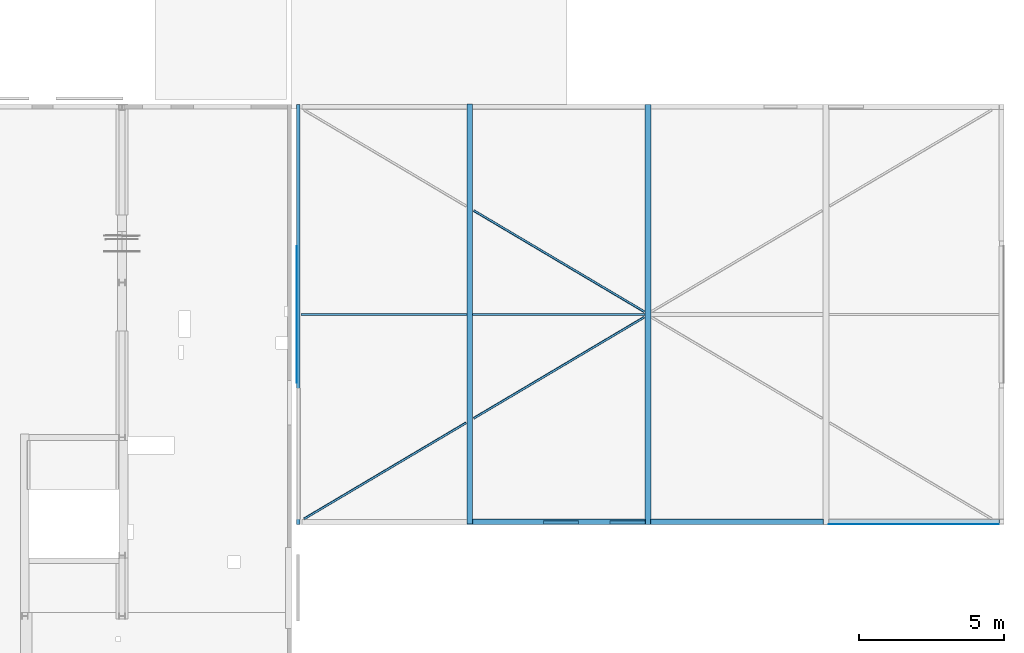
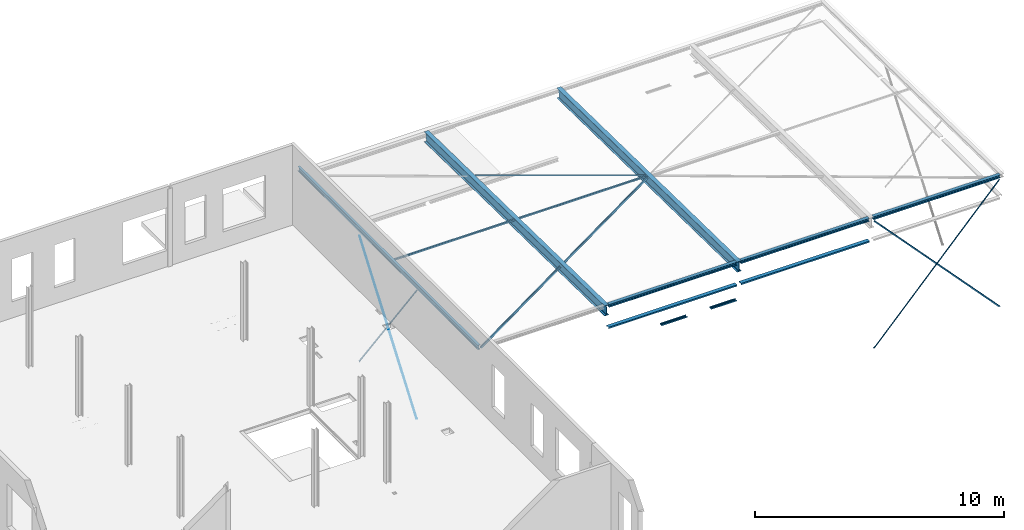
# One storey, part 9 of 16: 19 beams.
"""IFC2X3 building model written with IfcOpenShell, lengths in millimetres."""

from ifc_helpers import new_model, entity, si_unit, converted_unit, derived_unit, direction, frame, frame_2d, origin, place, context, subcontext, project, spatial, polyline, circle_curve, parameter, trimmed, segment, composite_curve, rectangle, i_section, outline, extrude, material, type_object, element, save


model = new_model("IFC2X3")

# Units and contexts
model_context = context("Model", 3, precision=0.01, world=origin(), true_north=direction((6.12303176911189e-17, 1.0)))
body_context = subcontext(model_context, "Body", "Model", "MODEL_VIEW")
ifc_project = project(units=[si_unit("LENGTHUNIT", "METRE", prefix="MILLI"), si_unit("AREAUNIT", "SQUARE_METRE"), si_unit("VOLUMEUNIT", "CUBIC_METRE"), converted_unit("PLANEANGLEUNIT", "DEGREE", entity("IfcRatioMeasure", 0.0174532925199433), si_unit("PLANEANGLEUNIT", "RADIAN"), dimensions=[0, 0, 0, 0, 0, 0, 0]), si_unit("MASSUNIT", "GRAM", prefix="KILO"), derived_unit("MASSDENSITYUNIT", [(si_unit("MASSUNIT", "GRAM", prefix="KILO"), 1), (si_unit("LENGTHUNIT", "METRE"), -3)]), derived_unit("MOMENTOFINERTIAUNIT", [(si_unit("LENGTHUNIT", "METRE"), 4)]), si_unit("TIMEUNIT", "SECOND"), si_unit("FREQUENCYUNIT", "HERTZ"), si_unit("THERMODYNAMICTEMPERATUREUNIT", "DEGREE_CELSIUS"), derived_unit("THERMALTRANSMITTANCEUNIT", [(si_unit("MASSUNIT", "GRAM", prefix="KILO"), 1), (si_unit("THERMODYNAMICTEMPERATUREUNIT", "KELVIN"), -1), (si_unit("TIMEUNIT", "SECOND"), -3)]), derived_unit("VOLUMETRICFLOWRATEUNIT", [(si_unit("LENGTHUNIT", "METRE"), 3), (si_unit("TIMEUNIT", "SECOND"), -1)]), si_unit("ELECTRICCURRENTUNIT", "AMPERE"), si_unit("ELECTRICVOLTAGEUNIT", "VOLT"), si_unit("POWERUNIT", "WATT"), si_unit("FORCEUNIT", "NEWTON", prefix="KILO"), si_unit("ILLUMINANCEUNIT", "LUX"), si_unit("LUMINOUSFLUXUNIT", "LUMEN"), si_unit("LUMINOUSINTENSITYUNIT", "CANDELA"), derived_unit("USERDEFINED", [(si_unit("MASSUNIT", "GRAM", prefix="KILO"), -1), (si_unit("LENGTHUNIT", "METRE"), -2), (si_unit("TIMEUNIT", "SECOND"), 3), (si_unit("LUMINOUSFLUXUNIT", "LUMEN"), 1)]), derived_unit("LINEARVELOCITYUNIT", [(si_unit("LENGTHUNIT", "METRE"), 1), (si_unit("TIMEUNIT", "SECOND"), -1)]), si_unit("PRESSUREUNIT", "PASCAL"), derived_unit("USERDEFINED", [(si_unit("LENGTHUNIT", "METRE"), -2), (si_unit("MASSUNIT", "GRAM", prefix="KILO"), 1), (si_unit("TIMEUNIT", "SECOND"), -2)]), derived_unit("LINEARFORCEUNIT", [(si_unit("MASSUNIT", "GRAM", prefix="KILO"), 1), (si_unit("LENGTHUNIT", "METRE"), 1), (si_unit("TIMEUNIT", "SECOND"), -2), (si_unit("LENGTHUNIT", "METRE"), -1)]), derived_unit("PLANARFORCEUNIT", [(si_unit("MASSUNIT", "GRAM", prefix="KILO"), 1), (si_unit("LENGTHUNIT", "METRE"), 1), (si_unit("TIMEUNIT", "SECOND"), -2), (si_unit("LENGTHUNIT", "METRE"), -2)])], contexts=[model_context])

# Site, building, storey
site_placement = place(None, origin())
site = spatial("IfcSite", under=ifc_project, at=site_placement, Name="Default", CompositionType="ELEMENT")
building_placement = place(site_placement, origin())
building = spatial("IfcBuilding", under=site, at=building_placement, CompositionType="ELEMENT")
storey_placement = place(building_placement, frame((0.0, 0.0, 3500.0)))
storey = spatial("IfcBuildingStorey", under=building, at=storey_placement, Name="01 eerste verdieping", CompositionType="ELEMENT", Elevation=3500.00000000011)

# Beams
ifc_material = material(Name="00_Staal_generiek")
beam_type_1 = type_object("IfcBeamType", Name="BERSnl_28_SF_LIB_balk koker vierkant_gen_ISR:balk gen k80x80x4", PredefinedType="BEAM")
beam_1_placement = place(storey_placement, frame((41085.9707996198, 28246.2966282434, 2850.0)))
element("IfcBeam", 1, at=beam_1_placement, inside=storey, type_object=beam_type_1, material=ifc_material, Name="BERSnl_28_SF_LIB_balk koker vierkant_gen_ISR:balk gen k80x80x4", ObjectType="BERSnl_28_SF_LIB_balk koker vierkant_gen_ISR:balk gen k80x80x4", context=body_context, shape_type="SweptSolid", body=[
    extrude(outline(composite_curve([segment(trimmed(circle_curve(frame_2d((-32.0, -32.0), x_axis=(1.0, 0.0)), 8.0), [parameter(180.0)], [parameter(270.0)], True, "PARAMETER"), True, "CONTINUOUS"), segment(polyline([(-32.0, -40.0), (32.0, -40.0)]), True, "CONTINUOUS"), segment(trimmed(circle_curve(frame_2d((32.0, -32.0), x_axis=(1.0, 0.0)), 8.0), [parameter(270.0)], [parameter(5.08888749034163e-14)], True, "PARAMETER"), True, "CONTINUOUS"), segment(polyline([(40.0, -32.0), (40.0, 32.0)]), True, "CONTINUOUS"), segment(trimmed(circle_curve(frame_2d((32.0, 32.0), x_axis=(1.0, 0.0)), 8.0), [parameter(360.0)], [parameter(89.9999999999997)], True, "PARAMETER"), True, "CONTINUOUS"), segment(polyline([(32.0, 40.0), (-32.0, 40.0)]), True, "CONTINUOUS"), segment(trimmed(circle_curve(frame_2d((-32.0, 32.0), x_axis=(1.0, 0.0)), 8.0), [parameter(90.0000000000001)], [parameter(180.0)], True, "PARAMETER"), True, "CONTINUOUS"), segment(polyline([(-40.0, 32.0), (-40.0, -32.0)]), True, "CONTINUOUS")], self_intersect=False), holes=[composite_curve([segment(polyline([(32.0, -36.0), (-32.0, -36.0)]), True, "CONTINUOUS"), segment(trimmed(circle_curve(frame_2d((-32.0, -32.0), x_axis=(1.0, 0.0)), 4.0), [parameter(180.0)], [parameter(270.0)], True, "PARAMETER"), False, "CONTINUOUS"), segment(polyline([(-36.0, -32.0), (-36.0, 32.0)]), True, "CONTINUOUS"), segment(trimmed(circle_curve(frame_2d((-32.0, 32.0), x_axis=(1.0, 0.0)), 4.0), [parameter(90.0000000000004)], [parameter(180.0)], True, "PARAMETER"), False, "CONTINUOUS"), segment(polyline([(-32.0, 36.0), (32.0, 36.0)]), True, "CONTINUOUS"), segment(trimmed(circle_curve(frame_2d((32.0, 32.0), x_axis=(1.0, 0.0)), 4.0), [parameter(0.0)], [parameter(90.0000000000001)], True, "PARAMETER"), False, "CONTINUOUS"), segment(polyline([(36.0, 32.0), (36.0, -32.0)]), True, "CONTINUOUS"), segment(trimmed(circle_curve(frame_2d((32.0, -32.0), x_axis=(1.0, 0.0)), 4.0), [parameter(270.0)], [parameter(3.05333249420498e-13)], True, "PARAMETER"), False, "CONTINUOUS")], self_intersect=False)]), frame((-2.51561371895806, 0.0, -40.0), z_axis=(1.0, 0.0, 0.0), x_axis=(0.0, -1.0, 0.0)), (0.0, 0.0, 1.0), 5949.9437424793),
])
beam_2_placement = place(storey_placement, frame((35241.9707996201, 28246.2966282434, 2850.0)))
element("IfcBeam", 2, at=beam_2_placement, inside=storey, type_object=beam_type_1, material=ifc_material, Name="BERSnl_28_SF_LIB_balk koker vierkant_gen_ISR:balk gen k80x80x4", ObjectType="BERSnl_28_SF_LIB_balk koker vierkant_gen_ISR:balk gen k80x80x4", context=body_context, shape_type="SweptSolid", body=[
    extrude(outline(composite_curve([segment(trimmed(circle_curve(frame_2d((-32.0, -32.0), x_axis=(1.0, 0.0)), 8.0), [parameter(180.0)], [parameter(270.0)], True, "PARAMETER"), True, "CONTINUOUS"), segment(polyline([(-32.0, -40.0), (32.0, -40.0)]), True, "CONTINUOUS"), segment(trimmed(circle_curve(frame_2d((32.0, -32.0), x_axis=(1.0, 0.0)), 8.0), [parameter(270.0)], [parameter(5.08888749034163e-14)], True, "PARAMETER"), True, "CONTINUOUS"), segment(polyline([(40.0, -32.0), (40.0, 32.0)]), True, "CONTINUOUS"), segment(trimmed(circle_curve(frame_2d((32.0, 32.0), x_axis=(1.0, 0.0)), 8.0), [parameter(360.0)], [parameter(89.9999999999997)], True, "PARAMETER"), True, "CONTINUOUS"), segment(polyline([(32.0, 40.0), (-32.0, 40.0)]), True, "CONTINUOUS"), segment(trimmed(circle_curve(frame_2d((-32.0, 32.0), x_axis=(1.0, 0.0)), 8.0), [parameter(90.0000000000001)], [parameter(180.0)], True, "PARAMETER"), True, "CONTINUOUS"), segment(polyline([(-40.0, 32.0), (-40.0, -32.0)]), True, "CONTINUOUS")], self_intersect=False), holes=[composite_curve([segment(polyline([(32.0, -36.0), (-32.0, -36.0)]), True, "CONTINUOUS"), segment(trimmed(circle_curve(frame_2d((-32.0, -32.0), x_axis=(1.0, 0.0)), 4.0), [parameter(180.0)], [parameter(270.0)], True, "PARAMETER"), False, "CONTINUOUS"), segment(polyline([(-36.0, -32.0), (-36.0, 32.0)]), True, "CONTINUOUS"), segment(trimmed(circle_curve(frame_2d((-32.0, 32.0), x_axis=(1.0, 0.0)), 4.0), [parameter(90.0000000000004)], [parameter(180.0)], True, "PARAMETER"), False, "CONTINUOUS"), segment(polyline([(-32.0, 36.0), (32.0, 36.0)]), True, "CONTINUOUS"), segment(trimmed(circle_curve(frame_2d((32.0, 32.0), x_axis=(1.0, 0.0)), 4.0), [parameter(0.0)], [parameter(90.0000000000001)], True, "PARAMETER"), False, "CONTINUOUS"), segment(polyline([(36.0, 32.0), (36.0, -32.0)]), True, "CONTINUOUS"), segment(trimmed(circle_curve(frame_2d((32.0, -32.0), x_axis=(1.0, 0.0)), 4.0), [parameter(270.0)], [parameter(3.05333249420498e-13)], True, "PARAMETER"), False, "CONTINUOUS")], self_intersect=False)]), frame((-82.5156137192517, 0.0, -40.0), z_axis=(1.0, 0.0, 0.0), x_axis=(0.0, -1.0, 0.0)), (0.0, 0.0, 1.0), 5723.94374247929),
])
beam_type_2 = type_object("IfcBeamType", Name="BERSnl_28_SF_LIB_balk strip_gen_ISR:balk strip  gen 60x6", PredefinedType="USERDEFINED")
beam_3_placement = place(storey_placement, frame((53480.9179705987, 20999.2966282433, -3355.63145820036), z_axis=(0.73135370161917, 0.0, -0.681998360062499), x_axis=(0.681998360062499, 0.0, 0.73135370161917)))
element("IfcBeam", 3, at=beam_3_placement, inside=storey, type_object=beam_type_2, material=ifc_material, Name="BERSnl_28_SF_LIB_balk strip_gen_ISR:balk strip  gen 60x6", ObjectType="BERSnl_28_SF_LIB_balk strip_gen_ISR:balk strip  gen 60x6", context=body_context, shape_type="SweptSolid", body=[
    extrude(rectangle(XDim=59.9999999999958, YDim=5.99999999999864, at=frame_2d((1.4388490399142e-13, 0.0), x_axis=(1.0, 0.0))), frame((-155.581316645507, 0.0, 30.0), z_axis=(1.0, 0.0, 0.0), x_axis=(0.0, 0.0, -1.0)), (0.0, 0.0, 1.0), 8542.64911655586),
])
beam_4_placement = place(storey_placement, frame((59145.9361436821, 20999.2966282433, -3355.63145820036), z_axis=(0.73135370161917, 0.0, 0.681998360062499), x_axis=(-0.681998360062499, 0.0, 0.73135370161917)))
element("IfcBeam", 4, at=beam_4_placement, inside=storey, type_object=beam_type_2, material=ifc_material, Name="BERSnl_28_SF_LIB_balk strip_gen_ISR:balk strip  gen 60x6", ObjectType="BERSnl_28_SF_LIB_balk strip_gen_ISR:balk strip  gen 60x6", context=body_context, shape_type="SweptSolid", body=[
    extrude(rectangle(XDim=59.9999999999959, YDim=5.99999999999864, at=frame_2d((1.06581410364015e-14, 0.0), x_axis=(1.0, 0.0))), frame((-155.581316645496, 0.0, -30.0), z_axis=(1.0, 0.0, 0.0), x_axis=(0.0, 0.0, -1.0)), (0.0, 0.0, 1.0), 8531.76769952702),
])
beam_5_placement = place(storey_placement, frame((35000.9270571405, 25904.4378253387, -3462.0795624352), z_axis=(1.0, 0.0, 0.0), x_axis=(0.0, 0.595146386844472, 0.803617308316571)))
element("IfcBeam", 5, at=beam_5_placement, inside=storey, type_object=beam_type_2, material=ifc_material, Name="BERSnl_28_SF_LIB_balk strip_gen_ISR:balk strip  gen 60x6", ObjectType="BERSnl_28_SF_LIB_balk strip_gen_ISR:balk strip  gen 60x6", context=body_context, shape_type="SweptSolid", body=[
    extrude(rectangle(XDim=59.999999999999, YDim=5.99999999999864, at=frame_2d((0.0, -7.105427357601e-15), x_axis=(0.0, 1.0))), frame((-17.7819074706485, -30.0, 0.0), z_axis=(1.0, 0.0, 0.0), x_axis=(0.0, 0.0, -1.0)), (0.0, 0.0, 1.0), 7719.42517268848),
])
beam_6_placement = place(storey_placement, frame((35006.9270571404, 30580.2572643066, -3458.08638488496), z_axis=(1.0, 0.0, 0.0), x_axis=(0.0, -0.593289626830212, 0.804989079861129)))
element("IfcBeam", 6, at=beam_6_placement, inside=storey, type_object=beam_type_2, material=ifc_material, Name="BERSnl_28_SF_LIB_balk strip_gen_ISR:balk strip  gen 60x6", ObjectType="BERSnl_28_SF_LIB_balk strip_gen_ISR:balk strip  gen 60x6", context=body_context, shape_type="SweptSolid", body=[
    extrude(rectangle(XDim=59.9999999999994, YDim=5.99999999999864, at=frame_2d((0.0, -2.34834374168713e-12), x_axis=(0.0, 1.0))), frame((-31.1898014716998, 30.0, 0.0), z_axis=(1.0, 0.0, 0.0), x_axis=(0.0, 0.0, -1.0)), (0.0, 0.0, 1.0), 7851.1898014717),
])
beam_type_3 = type_object("IfcBeamType", Name="BERSnl_28_SF_LIB_balk unp_gen_ISR:balk_gen_UNP140", PredefinedType="BEAM")
beam_7_placement = place(storey_placement, frame((47265.8374303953, 20996.2966282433, 1077.49999999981), z_axis=(0.0, 0.0, 1.0), x_axis=(-1.0, 0.0, 0.0)))
element("IfcBeam", 7, at=beam_7_placement, inside=storey, type_object=beam_type_3, material=ifc_material, Name="BERSnl_28_SF_LIB_balk unp_gen_ISR:balk_gen_UNP140", ObjectType="BERSnl_28_SF_LIB_balk unp_gen_ISR:balk_gen_UNP140", context=body_context, shape_type="SweptSolid", body=[
    extrude(outline(composite_curve([segment(polyline([(-26.8998758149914, -70.0), (33.100124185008, -70.0)]), True, "CONTINUOUS"), segment(polyline([(33.100124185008, -70.0), (33.1001241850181, 70.0)]), True, "CONTINUOUS"), segment(polyline([(33.1001241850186, 70.0), (-26.8998758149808, 70.0)]), True, "CONTINUOUS"), segment(polyline([(-26.8998758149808, 70.0), (-26.899875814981, 66.7383127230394)]), True, "CONTINUOUS"), segment(trimmed(circle_curve(frame_2d((-21.8998758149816, 66.7383127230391), x_axis=(-1.0, 0.0)), 4.99999999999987), [parameter(0.0)], [parameter(85.4200000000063)], True, "PARAMETER"), True, "CONTINUOUS"), segment(polyline([(-22.2991307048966, 61.7542786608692), (16.8986339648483, 58.6142721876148)]), True, "CONTINUOUS"), segment(trimmed(circle_curve(frame_2d((16.1001241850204, 48.6462040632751), x_axis=(0.0798509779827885, 0.996806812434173)), 9.99999999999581), [parameter(274.579999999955)], [parameter(0.0)], True, "PARAMETER"), False, "CONTINUOUS"), segment(polyline([(26.1001241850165, 48.6462040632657), (26.1001241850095, -48.6462040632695)]), True, "CONTINUOUS"), segment(trimmed(circle_curve(frame_2d((16.1001241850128, -48.6462040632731), x_axis=(1.0, 0.0)), 9.99999999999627), [parameter(274.579999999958)], [parameter(0.0)], True, "PARAMETER"), False, "CONTINUOUS"), segment(polyline([(16.8986339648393, -58.6142721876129), (-22.2991307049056, -61.754278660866)]), True, "CONTINUOUS"), segment(trimmed(circle_curve(frame_2d((-21.8998758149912, -66.7383127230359), x_axis=(-0.0798509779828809, 0.996806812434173)), 4.99999999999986), [parameter(0.0)], [parameter(85.4200000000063)], True, "PARAMETER"), True, "CONTINUOUS"), segment(polyline([(-26.8998758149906, -66.7383127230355), (-26.8998758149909, -70.0)]), True, "CONTINUOUS")], self_intersect=False)), frame((222.410373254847, -70.0, 15.6001241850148), z_axis=(1.0, 0.0, 0.0), x_axis=(0.0, 0.0, -1.0)), (0.0, 0.0, 1.0), 1210.00000000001),
])
beam_8_placement = place(storey_placement, frame((44965.8374303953, 20996.2966282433, 1077.49999999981), z_axis=(0.0, 0.0, 1.0), x_axis=(-1.0, 0.0, 0.0)))
element("IfcBeam", 8, at=beam_8_placement, inside=storey, type_object=beam_type_3, material=ifc_material, Name="BERSnl_28_SF_LIB_balk unp_gen_ISR:balk_gen_UNP140", ObjectType="BERSnl_28_SF_LIB_balk unp_gen_ISR:balk_gen_UNP140", context=body_context, shape_type="SweptSolid", body=[
    extrude(outline(composite_curve([segment(polyline([(-26.8998758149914, -70.0), (33.100124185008, -70.0)]), True, "CONTINUOUS"), segment(polyline([(33.100124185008, -70.0), (33.1001241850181, 70.0)]), True, "CONTINUOUS"), segment(polyline([(33.1001241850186, 70.0), (-26.8998758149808, 70.0)]), True, "CONTINUOUS"), segment(polyline([(-26.8998758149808, 70.0), (-26.899875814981, 66.7383127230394)]), True, "CONTINUOUS"), segment(trimmed(circle_curve(frame_2d((-21.8998758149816, 66.7383127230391), x_axis=(-1.0, 0.0)), 4.99999999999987), [parameter(0.0)], [parameter(85.4200000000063)], True, "PARAMETER"), True, "CONTINUOUS"), segment(polyline([(-22.2991307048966, 61.7542786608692), (16.8986339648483, 58.6142721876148)]), True, "CONTINUOUS"), segment(trimmed(circle_curve(frame_2d((16.1001241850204, 48.6462040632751), x_axis=(0.0798509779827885, 0.996806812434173)), 9.99999999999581), [parameter(274.579999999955)], [parameter(0.0)], True, "PARAMETER"), False, "CONTINUOUS"), segment(polyline([(26.1001241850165, 48.6462040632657), (26.1001241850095, -48.6462040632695)]), True, "CONTINUOUS"), segment(trimmed(circle_curve(frame_2d((16.1001241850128, -48.6462040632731), x_axis=(1.0, 0.0)), 9.99999999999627), [parameter(274.579999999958)], [parameter(0.0)], True, "PARAMETER"), False, "CONTINUOUS"), segment(polyline([(16.8986339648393, -58.6142721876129), (-22.2991307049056, -61.754278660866)]), True, "CONTINUOUS"), segment(trimmed(circle_curve(frame_2d((-21.8998758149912, -66.7383127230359), x_axis=(-0.0798509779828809, 0.996806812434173)), 4.99999999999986), [parameter(0.0)], [parameter(85.4200000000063)], True, "PARAMETER"), True, "CONTINUOUS"), segment(polyline([(-26.8998758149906, -66.7383127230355), (-26.8998758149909, -70.0)]), True, "CONTINUOUS")], self_intersect=False)), frame((222.410373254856, -70.0, 15.6001241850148), z_axis=(1.0, 0.0, 0.0), x_axis=(0.0, 0.0, -1.0)), (0.0, 0.0, 1.0), 1210.00000000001),
])
beam_type_4 = type_object("IfcBeamType", Name="BERSnl_28_SF_LIB_balk ipe -SH_gen_ISR:balk gen ipe500", PredefinedType="BEAM")
beam_9_placement = place(storey_placement, frame((47133.4270571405, 29996.8853596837, 2820.0), z_axis=(0.0, 0.0168230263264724, 0.999858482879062), x_axis=(0.0, -0.999858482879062, 0.0168230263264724)))
element("IfcBeam", 9, at=beam_9_placement, inside=storey, type_object=beam_type_4, material=ifc_material, Name="BERSnl_28_SF_LIB_balk ipe -SH_gen_ISR:balk gen ipe500", ObjectType="BERSnl_28_SF_LIB_balk ipe -SH_gen_ISR:balk gen ipe500", context=body_context, shape_type="SweptSolid", body=[
    extrude(i_section(OverallWidth=200.000000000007, OverallDepth=499.999999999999, WebThickness=10.1999999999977, FlangeThickness=16.0000000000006, FilletRadius=21.0000000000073, at=frame_2d((1.08002495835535e-12, 1.29958266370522e-11), x_axis=(0.0, 1.0))), frame((-5507.2793335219, 0.0, -250.0), z_axis=(1.0, 0.0, 0.0), x_axis=(0.0, 0.0, -1.0)), (0.0, 0.0, 1.0), 14508.604248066),
])
beam_10_placement = place(storey_placement, frame((40983.4270571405, 30004.4900459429, 2820.0), z_axis=(0.0, 0.0168230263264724, 0.999858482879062), x_axis=(0.0, -0.999858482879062, 0.0168230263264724)))
element("IfcBeam", 10, at=beam_10_placement, inside=storey, type_object=beam_type_4, material=ifc_material, Name="BERSnl_28_SF_LIB_balk ipe -SH_gen_ISR:balk gen ipe500", ObjectType="BERSnl_28_SF_LIB_balk ipe -SH_gen_ISR:balk gen ipe500", context=body_context, shape_type="SweptSolid", body=[
    extrude(i_section(OverallWidth=200.000000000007, OverallDepth=499.999999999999, WebThickness=10.1999999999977, FlangeThickness=16.0000000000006, FilletRadius=21.0000000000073, at=frame_2d((0.0, 4.33431068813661e-12), x_axis=(0.0, 1.0))), frame((-5507.2793335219, 0.0, -250.0), z_axis=(1.0, 0.0, 0.0), x_axis=(0.0, 0.0, -1.0)), (0.0, 0.0, 1.0), 14508.604248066),
])
beam_type_5 = type_object("IfcBeamType", Name="BERSnl_28_SF_LIB_balk hea -SH_gen_ISR:balk gen hea160", PredefinedType="BEAM")
beam_11_placement = place(storey_placement, frame((54767.5838972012, 21076.2966282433, 2970.0)))
element("IfcBeam", 11, at=beam_11_placement, inside=storey, type_object=beam_type_5, material=ifc_material, Name="BERSnl_28_SF_LIB_balk hea -SH_gen_ISR:balk gen hea160", ObjectType="BERSnl_28_SF_LIB_balk hea -SH_gen_ISR:balk gen hea160", context=body_context, shape_type="SweptSolid", body=[
    extrude(i_section(OverallWidth=160.00000000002, OverallDepth=152.0, WebThickness=5.99999999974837, FlangeThickness=9.0000000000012, FilletRadius=15.0000000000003, at=frame_2d((2.16715534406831e-12, -2.16715534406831e-12), x_axis=(0.0, 1.0))), frame((-1384.1568400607, 0.0, -76.0), z_axis=(1.0, 0.0, 0.0), x_axis=(0.0, 0.0, -1.0)), (0.0, 0.0, 1.0), 5890.00000000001),
])
beam_12_placement = place(storey_placement, frame((48617.5838972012, 21076.2966282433, 2970.0)))
element("IfcBeam", 12, at=beam_12_placement, inside=storey, type_object=beam_type_5, material=ifc_material, Name="BERSnl_28_SF_LIB_balk hea -SH_gen_ISR:balk gen hea160", ObjectType="BERSnl_28_SF_LIB_balk hea -SH_gen_ISR:balk gen hea160", context=body_context, shape_type="SweptSolid", body=[
    extrude(i_section(OverallWidth=160.00000000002, OverallDepth=152.0, WebThickness=5.99999999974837, FlangeThickness=9.0000000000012, FilletRadius=15.0000000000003, at=frame_2d((2.16715534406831e-12, -2.16715534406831e-12), x_axis=(0.0, 1.0))), frame((-1384.15684006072, 0.0, -76.0), z_axis=(1.0, 0.0, 0.0), x_axis=(0.0, 0.0, -1.0)), (0.0, 0.0, 1.0), 5949.99999999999),
])
beam_13_placement = place(storey_placement, frame((42467.5838972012, 21076.2966282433, 2970.0)))
element("IfcBeam", 13, at=beam_13_placement, inside=storey, type_object=beam_type_5, material=ifc_material, Name="BERSnl_28_SF_LIB_balk hea -SH_gen_ISR:balk gen hea160", ObjectType="BERSnl_28_SF_LIB_balk hea -SH_gen_ISR:balk gen hea160", context=body_context, shape_type="SweptSolid", body=[
    extrude(i_section(OverallWidth=160.00000000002, OverallDepth=152.0, WebThickness=5.99999999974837, FlangeThickness=9.0000000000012, FilletRadius=15.0000000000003, at=frame_2d((2.16715534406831e-12, -6.50146603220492e-12), x_axis=(0.0, 1.0))), frame((-1372.62669131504, 0.0, -76.0), z_axis=(1.0, 0.0, 0.0), x_axis=(0.0, 0.0, -1.0)), (0.0, 0.0, 1.0), 5938.46985125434),
])
beam_type_6 = type_object("IfcBeamType", Name="BERSnl_28_SF_LIB_balk hoeklijn_gen_ISR:balk gen l80x8", PredefinedType="BEAM")
beam_14_placement = place(storey_placement, frame((44945.8738817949, 29543.0702714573, 2840.0), z_axis=(-0.00694321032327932, 0.0041159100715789, 0.99996742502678), x_axis=(-0.860186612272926, 0.509915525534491, -0.00807148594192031)))
element("IfcBeam", 14, at=beam_14_placement, inside=storey, type_object=beam_type_6, material=ifc_material, Name="BERSnl_28_SF_LIB_balk hoeklijn_gen_ISR:balk gen l80x8", ObjectType="BERSnl_28_SF_LIB_balk hoeklijn_gen_ISR:balk gen l80x8", context=body_context, shape_type="SweptSolid", body=[
    extrude(outline(composite_curve([segment(polyline([(27.2222222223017, -49.7777777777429), (30.2222222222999, -49.7777777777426)]), True, "CONTINUOUS"), segment(polyline([(30.2222222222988, -49.7777777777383), (30.2222222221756, 30.2222222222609)]), True, "CONTINUOUS"), segment(polyline([(30.2222222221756, 30.2222222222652), (-49.7777777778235, 30.2222222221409)]), True, "CONTINUOUS"), segment(polyline([(-49.7777777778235, 30.2222222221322), (-49.7777777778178, 27.2222222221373)]), True, "CONTINUOUS"), segment(trimmed(circle_curve(frame_2d((-44.7777777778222, 27.222222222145), x_axis=(-1.0, 0.0)), 4.99999999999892), [parameter(0.0)], [parameter(90.0000000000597)], True, "PARAMETER"), True, "CONTINUOUS"), segment(polyline([(-44.7777777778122, 22.2222222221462), (12.22222222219, 22.222222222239)]), True, "CONTINUOUS"), segment(trimmed(circle_curve(frame_2d((12.2222222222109, 12.222222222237), x_axis=(0.0, 1.0)), 9.99999999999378), [parameter(269.999999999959)], [parameter(0.0)], True, "PARAMETER"), False, "CONTINUOUS"), segment(polyline([(22.2222222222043, 12.2222222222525), (22.2222222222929, -44.7777777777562)]), True, "CONTINUOUS"), segment(trimmed(circle_curve(frame_2d((27.2222222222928, -44.7777777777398), x_axis=(-1.0, 0.0)), 5.00000000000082), [parameter(0.0)], [parameter(89.9999999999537)], True, "PARAMETER"), True, "CONTINUOUS")], self_intersect=False)), frame((-2388.33625352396, -7.62222222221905, -49.7777777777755), z_axis=(1.0, 0.0, 0.0), x_axis=(0.0, 0.0, -1.0)), (0.0, 0.0, 1.0), 6853.10228995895),
])
beam_15_placement = place(storey_placement, frame((44945.8738817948, 26949.5229850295, 2840.0), z_axis=(0.0, 0.0, 1.0), x_axis=(-0.860214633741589, -0.509932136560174, 0.0)))
element("IfcBeam", 15, at=beam_15_placement, inside=storey, type_object=beam_type_6, material=ifc_material, Name="BERSnl_28_SF_LIB_balk hoeklijn_gen_ISR:balk gen l80x8", ObjectType="BERSnl_28_SF_LIB_balk hoeklijn_gen_ISR:balk gen l80x8", context=body_context, shape_type="SweptSolid", body=[
    extrude(outline(composite_curve([segment(polyline([(-49.7777777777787, -30.2222222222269), (30.2222222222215, -30.2222222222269)]), True, "CONTINUOUS"), segment(polyline([(30.2222222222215, -30.2222222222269), (30.2222222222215, 49.7777777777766)]), True, "CONTINUOUS"), segment(polyline([(30.2222222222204, 49.7777777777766), (27.2222222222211, 49.7777777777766)]), True, "CONTINUOUS"), segment(trimmed(circle_curve(frame_2d((27.2222222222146, 44.7777777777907), x_axis=(0.0, 1.0)), 4.99999999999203), [parameter(0.0)], [parameter(90.0000000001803)], True, "PARAMETER"), True, "CONTINUOUS"), segment(polyline([(22.2222222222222, 44.7777777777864), (22.2222222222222, -12.222222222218)]), True, "CONTINUOUS"), segment(trimmed(circle_curve(frame_2d((12.2222222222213, -12.2222222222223), x_axis=(1.0, 0.0)), 10.0000000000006), [parameter(270.000000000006)], [parameter(0.0)], True, "PARAMETER"), False, "CONTINUOUS"), segment(polyline([(12.2222222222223, -22.2222222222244), (-44.7777777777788, -22.2222222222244)]), True, "CONTINUOUS"), segment(trimmed(circle_curve(frame_2d((-44.7777777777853, -27.2222222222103), x_axis=(0.0, 1.0)), 4.99999999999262), [parameter(0.0)], [parameter(90.0000000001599)], True, "PARAMETER"), True, "CONTINUOUS"), segment(polyline([(-49.7777777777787, -27.2222222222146), (-49.7777777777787, -30.2222222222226)]), True, "CONTINUOUS")], self_intersect=False)), frame((-2388.35889808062, 7.62222222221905, -49.7777777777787), z_axis=(1.0, 0.0, 0.0), x_axis=(0.0, 0.0, -1.0)), (0.0, 0.0, 1.0), 6853.00228995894),
])
beam_16_placement = place(storey_placement, frame((40849.6826242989, 24521.3155612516, 2840.0), z_axis=(0.0, 0.0, 1.0), x_axis=(-0.860214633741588, -0.509932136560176, 0.0)))
element("IfcBeam", 16, at=beam_16_placement, inside=storey, type_object=beam_type_6, material=ifc_material, Name="BERSnl_28_SF_LIB_balk hoeklijn_gen_ISR:balk gen l80x8", ObjectType="BERSnl_28_SF_LIB_balk hoeklijn_gen_ISR:balk gen l80x8", context=body_context, shape_type="SweptSolid", body=[
    extrude(outline(composite_curve([segment(polyline([(-49.7777777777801, -30.2222222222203), (30.2222222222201, -30.2222222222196)]), True, "CONTINUOUS"), segment(polyline([(30.2222222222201, -30.222222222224), (30.2222222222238, 49.7777777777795)]), True, "CONTINUOUS"), segment(polyline([(30.2222222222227, 49.7777777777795), (27.2222222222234, 49.7777777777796)]), True, "CONTINUOUS"), segment(trimmed(circle_curve(frame_2d((27.2222222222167, 44.7777777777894), x_axis=(0.0, 1.0)), 4.99999999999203), [parameter(0.0)], [parameter(90.0000000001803)], True, "PARAMETER"), True, "CONTINUOUS"), segment(polyline([(22.2222222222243, 44.7777777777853), (22.2222222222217, -12.222222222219)]), True, "CONTINUOUS"), segment(trimmed(circle_curve(frame_2d((12.2222222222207, -12.2222222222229), x_axis=(1.0, 0.0)), 10.0000000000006), [parameter(270.000000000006)], [parameter(0.0)], True, "PARAMETER"), False, "CONTINUOUS"), segment(polyline([(12.2222222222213, -22.2222222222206), (-44.7777777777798, -22.2222222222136)]), True, "CONTINUOUS"), segment(trimmed(circle_curve(frame_2d((-44.7777777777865, -27.2222222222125), x_axis=(0.0, 1.0)), 4.99999999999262), [parameter(0.0)], [parameter(90.0000000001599)], True, "PARAMETER"), True, "CONTINUOUS"), segment(polyline([(-49.77777777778, -27.2222222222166), (-49.7777777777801, -30.2222222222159)]), True, "CONTINUOUS")], self_intersect=False)), frame((0.0, 7.62222222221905, -49.7777777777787), z_axis=(1.0, 0.0, 0.0), x_axis=(0.0, 0.0, -1.0)), (0.0, 0.0, 1.0), 6510.70739609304),
])
beam_type_7 = type_object("IfcBeamType", Name="BERSnl_28_SF_LIB_balk unp_gen_ISR:balk_gen_UNP180", PredefinedType="BEAM")
beam_17_placement = place(storey_placement, frame((55261.5254640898, 21176.2966282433, 1832.49999999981), z_axis=(0.0, 0.0, 1.0), x_axis=(-1.0, 0.0, 0.0)))
element("IfcBeam", 17, at=beam_17_placement, inside=storey, type_object=beam_type_7, material=ifc_material, Name="BERSnl_28_SF_LIB_balk unp_gen_ISR:balk_gen_UNP180", ObjectType="BERSnl_28_SF_LIB_balk unp_gen_ISR:balk_gen_UNP180", context=body_context, shape_type="SweptSolid", body=[
    extrude(outline(composite_curve([segment(polyline([(-38.5101366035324, -90.0), (31.4898633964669, -90.0)]), True, "CONTINUOUS"), segment(polyline([(31.4898633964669, -90.0), (31.4898633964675, -86.5603415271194)]), True, "CONTINUOUS"), segment(trimmed(circle_curve(frame_2d((25.9898633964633, -86.5603415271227), x_axis=(1.0, 0.0)), 5.50000000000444), [parameter(0.0)], [parameter(85.4199999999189)], True, "PARAMETER"), True, "CONTINUOUS"), segment(polyline([(26.4290437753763, -81.0779040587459), (-20.3884973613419, -77.3275018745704)]), True, "CONTINUOUS"), segment(trimmed(circle_curve(frame_2d((-19.510136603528, -66.3626269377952), x_axis=(-0.0798509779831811, -0.996806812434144)), 10.9999999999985), [parameter(274.579999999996)], [parameter(0.0)], True, "PARAMETER"), False, "CONTINUOUS"), segment(polyline([(-30.5101366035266, -66.3626269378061), (-30.510136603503, 66.3626269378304)]), True, "CONTINUOUS"), segment(trimmed(circle_curve(frame_2d((-19.5101366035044, 66.3626269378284), x_axis=(-1.0, 0.0)), 10.9999999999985), [parameter(274.579999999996)], [parameter(0.0)], True, "PARAMETER"), False, "CONTINUOUS"), segment(polyline([(-20.3884973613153, 77.3275018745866), (26.4290437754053, 81.0779040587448)]), True, "CONTINUOUS"), segment(trimmed(circle_curve(frame_2d((25.9898633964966, 86.5603415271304), x_axis=(0.0798509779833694, -0.99680681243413)), 5.50000000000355), [parameter(0.0)], [parameter(85.4199999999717)], True, "PARAMETER"), True, "CONTINUOUS"), segment(polyline([(31.4898633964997, 86.5603415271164), (31.4898633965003, 90.0)]), True, "CONTINUOUS"), segment(polyline([(31.4898633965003, 90.0), (-38.510136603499, 90.0)]), True, "CONTINUOUS"), segment(polyline([(-38.5101366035, 90.0), (-38.5101366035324, -90.0)]), True, "CONTINUOUS")], self_intersect=False)), frame((2068.09840694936, 90.0, -19.3101366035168), z_axis=(1.0, 0.0, 0.0), x_axis=(0.0, 0.0, -1.0)), (0.0, 0.0, 1.0), 5969.99999999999),
])
beam_18_placement = place(storey_placement, frame((49111.5254640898, 21176.2966282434, 1832.49999999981), z_axis=(0.0, 0.0, 1.0), x_axis=(-1.0, 0.0, 0.0)))
element("IfcBeam", 18, at=beam_18_placement, inside=storey, type_object=beam_type_7, material=ifc_material, Name="BERSnl_28_SF_LIB_balk unp_gen_ISR:balk_gen_UNP180", ObjectType="BERSnl_28_SF_LIB_balk unp_gen_ISR:balk_gen_UNP180", context=body_context, shape_type="SweptSolid", body=[
    extrude(outline(composite_curve([segment(polyline([(-38.5101366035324, -90.0), (31.4898633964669, -90.0)]), True, "CONTINUOUS"), segment(polyline([(31.4898633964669, -90.0), (31.4898633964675, -86.5603415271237)]), True, "CONTINUOUS"), segment(trimmed(circle_curve(frame_2d((25.9898633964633, -86.5603415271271), x_axis=(1.0, 0.0)), 5.50000000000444), [parameter(0.0)], [parameter(85.4199999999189)], True, "PARAMETER"), True, "CONTINUOUS"), segment(polyline([(26.4290437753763, -81.0779040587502), (-20.3884973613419, -77.3275018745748)]), True, "CONTINUOUS"), segment(trimmed(circle_curve(frame_2d((-19.510136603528, -66.3626269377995), x_axis=(-0.0798509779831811, -0.996806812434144)), 10.9999999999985), [parameter(274.579999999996)], [parameter(0.0)], True, "PARAMETER"), False, "CONTINUOUS"), segment(polyline([(-30.5101366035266, -66.3626269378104), (-30.510136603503, 66.3626269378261)]), True, "CONTINUOUS"), segment(trimmed(circle_curve(frame_2d((-19.5101366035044, 66.3626269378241), x_axis=(-1.0, 0.0)), 10.9999999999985), [parameter(274.579999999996)], [parameter(0.0)], True, "PARAMETER"), False, "CONTINUOUS"), segment(polyline([(-20.3884973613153, 77.3275018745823), (26.4290437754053, 81.0779040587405)]), True, "CONTINUOUS"), segment(trimmed(circle_curve(frame_2d((25.9898633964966, 86.5603415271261), x_axis=(0.0798509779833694, -0.99680681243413)), 5.50000000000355), [parameter(0.0)], [parameter(85.4199999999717)], True, "PARAMETER"), True, "CONTINUOUS"), segment(polyline([(31.4898633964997, 86.5603415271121), (31.4898633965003, 90.0)]), True, "CONTINUOUS"), segment(polyline([(31.4898633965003, 90.0), (-38.510136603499, 90.0)]), True, "CONTINUOUS"), segment(polyline([(-38.5101366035, 90.0), (-38.5101366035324, -90.0)]), True, "CONTINUOUS")], self_intersect=False)), frame((2068.09840694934, 90.0, -19.3101366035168), z_axis=(1.0, 0.0, 0.0), x_axis=(0.0, 0.0, -1.0)), (0.0, 0.0, 1.0), 5969.99999999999),
])
beam_type_8 = type_object("IfcBeamType", Name="BERSnl_28_SF_LIB_balk ipe -SH_gen_ISR:balk gen ipe220", PredefinedType="BEAM")
beam_19_placement = place(storey_placement, frame((35058.4270571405, 24093.3970358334, 3090.0), z_axis=(0.0, 0.0, 1.0), x_axis=(0.0, -1.0, 0.0)))
element("IfcBeam", 19, at=beam_19_placement, inside=storey, type_object=beam_type_8, material=ifc_material, Name="BERSnl_28_SF_LIB_balk ipe -SH_gen_ISR:balk gen ipe220", ObjectType="BERSnl_28_SF_LIB_balk ipe -SH_gen_ISR:balk gen ipe220", context=body_context, shape_type="SweptSolid", body=[
    extrude(i_section(OverallWidth=109.999999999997, OverallDepth=220.0, WebThickness=5.89999999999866, FlangeThickness=9.2000000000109, FilletRadius=12.0000000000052, at=frame_2d((2.16715534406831e-12, 4.33431068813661e-12), x_axis=(0.0, 1.0))), frame((-11402.89959241, 0.0, -110.0), z_axis=(1.0, 0.0, 0.0), x_axis=(0.0, 0.0, -1.0)), (0.0, 0.0, 1.0), 14500.0000000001),
])

save(model, "model.ifc")
